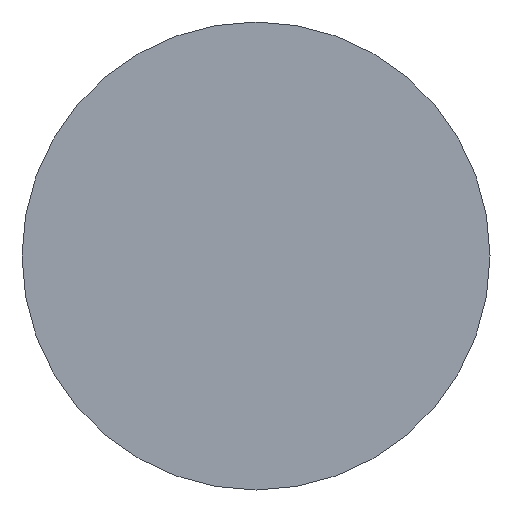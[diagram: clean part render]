
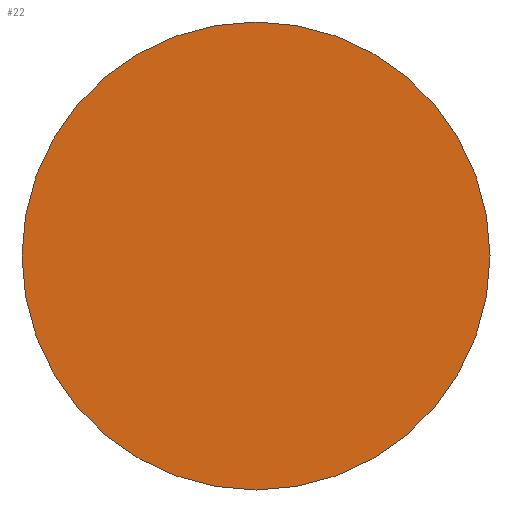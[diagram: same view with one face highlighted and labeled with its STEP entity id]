
A CAD part, left-side view. The second image highlights one B-rep face of the part: STEP entity #22.
In plain terms, the highlighted planar face has unit normal (-1, 0, 0).
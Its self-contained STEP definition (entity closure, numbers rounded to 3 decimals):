
#6 = ORIENTED_EDGE ( 'NONE', *, *, #59, .F. ) ;
#18 = VERTEX_POINT ( 'NONE', #204 ) ;
#22 = ADVANCED_FACE ( 'NONE', ( #217 ), #188, .T. ) ;
#31 = CARTESIAN_POINT ( 'NONE',  ( 0., 0., 0. ) ) ;
#39 = CIRCLE ( 'NONE', #77, 5. ) ;
#49 = ORIENTED_EDGE ( 'NONE', *, *, #178, .F. ) ;
#59 = EDGE_CURVE ( 'NONE', #247, #18, #139, .T. ) ;
#77 = AXIS2_PLACEMENT_3D ( 'NONE', #242, #252, #258 ) ;
#86 = AXIS2_PLACEMENT_3D ( 'NONE', #31, #156, #144 ) ;
#103 = EDGE_LOOP ( 'NONE', ( #6, #49 ) ) ;
#139 = CIRCLE ( 'NONE', #86, 5. ) ;
#144 = DIRECTION ( 'NONE',  ( 0., 1., 0. ) ) ;
#149 = CARTESIAN_POINT ( 'NONE',  ( 0., 0., 0. ) ) ;
#156 = DIRECTION ( 'NONE',  ( 1., 0., 0. ) ) ;
#160 = AXIS2_PLACEMENT_3D ( 'NONE', #149, #203, #224 ) ;
#178 = EDGE_CURVE ( 'NONE', #18, #247, #39, .T. ) ;
#188 = PLANE ( 'NONE',  #160 ) ;
#203 = DIRECTION ( 'NONE',  ( -1., 0., 0. ) ) ;
#204 = CARTESIAN_POINT ( 'NONE',  ( 0., -5., 0. ) ) ;
#217 = FACE_OUTER_BOUND ( 'NONE', #103, .T. ) ;
#224 = DIRECTION ( 'NONE',  ( 0., -1., 0. ) ) ;
#234 = CARTESIAN_POINT ( 'NONE',  ( 0., 5., 0. ) ) ;
#242 = CARTESIAN_POINT ( 'NONE',  ( 0., 0., 0. ) ) ;
#247 = VERTEX_POINT ( 'NONE', #234 ) ;
#252 = DIRECTION ( 'NONE',  ( 1., 0., 0. ) ) ;
#258 = DIRECTION ( 'NONE',  ( 0., 1., 0. ) ) ;
